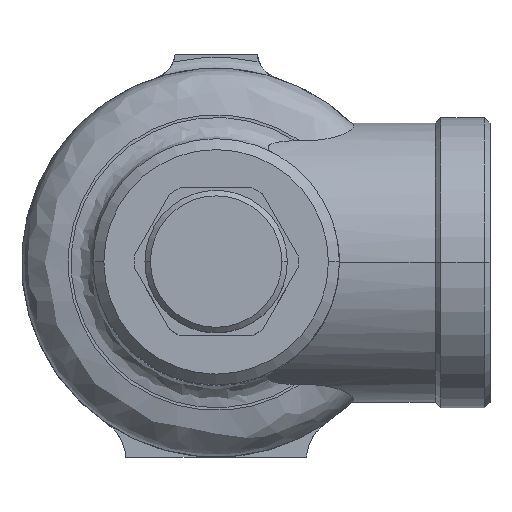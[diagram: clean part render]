
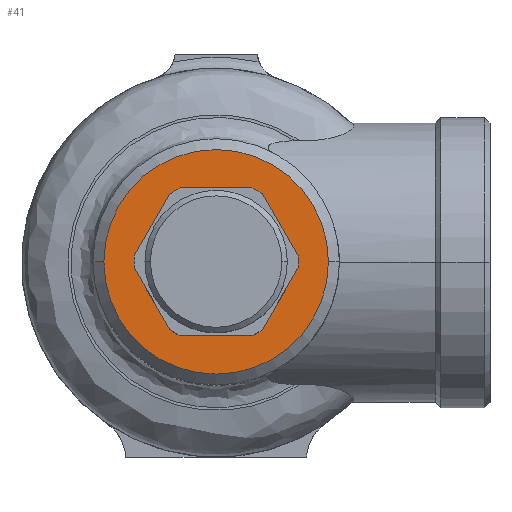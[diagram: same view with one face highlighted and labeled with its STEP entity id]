
A CAD part, top view. The second image highlights one B-rep face of the part: STEP entity #41.
In plain terms, the highlighted planar face has unit normal (0, 0, 1).
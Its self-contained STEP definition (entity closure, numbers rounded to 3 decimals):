
#41=ADVANCED_FACE('',(#137,#138),#136,.F.);
#136=PLANE('',#1040);
#137=FACE_OUTER_BOUND('',#1041,.T.);
#138=FACE_BOUND('',#1042,.T.);
#1037=CARTESIAN_POINT('',(386.904,-42.608,-247.223));
#1038=DIRECTION('',(0.,0.,-1.));
#1039=DIRECTION('',(-1.,0.,0.));
#1040=AXIS2_PLACEMENT_3D('',#1037,#1038,#1039);
#1041=EDGE_LOOP('',(#1798,#1799));
#1042=EDGE_LOOP('',(#1800,#1801,#1802,#1803,#1804,#1805,#1806,#1807,#1808,#1809,#1810,#1811,#1812,#1813));
#1798=ORIENTED_EDGE('',*,*,#2240,.F.);
#1799=ORIENTED_EDGE('',*,*,#2241,.F.);
#1800=ORIENTED_EDGE('',*,*,#2242,.F.);
#1801=ORIENTED_EDGE('',*,*,#2243,.F.);
#1802=ORIENTED_EDGE('',*,*,#2244,.F.);
#1803=ORIENTED_EDGE('',*,*,#2245,.F.);
#1804=ORIENTED_EDGE('',*,*,#2246,.F.);
#1805=ORIENTED_EDGE('',*,*,#2247,.F.);
#1806=ORIENTED_EDGE('',*,*,#2248,.F.);
#1807=ORIENTED_EDGE('',*,*,#2249,.F.);
#1808=ORIENTED_EDGE('',*,*,#2250,.F.);
#1809=ORIENTED_EDGE('',*,*,#2251,.F.);
#1810=ORIENTED_EDGE('',*,*,#2252,.F.);
#1811=ORIENTED_EDGE('',*,*,#2253,.F.);
#1812=ORIENTED_EDGE('',*,*,#2254,.F.);
#1813=ORIENTED_EDGE('',*,*,#2255,.F.);
#2240=EDGE_CURVE('',#2491,#2492,#2493,.T.);
#2241=EDGE_CURVE('',#2492,#2491,#2499,.T.);
#2242=EDGE_CURVE('',#2505,#2506,#2507,.T.);
#2243=EDGE_CURVE('',#2513,#2505,#2514,.T.);
#2244=EDGE_CURVE('',#2520,#2513,#2521,.T.);
#2245=EDGE_CURVE('',#2527,#2520,#2528,.T.);
#2246=EDGE_CURVE('',#2534,#2527,#2535,.T.);
#2247=EDGE_CURVE('',#2541,#2534,#2542,.T.);
#2248=EDGE_CURVE('',#2548,#2541,#2549,.T.);
#2249=EDGE_CURVE('',#2555,#2548,#2556,.T.);
#2250=EDGE_CURVE('',#2562,#2555,#2563,.T.);
#2251=EDGE_CURVE('',#2569,#2562,#2570,.T.);
#2252=EDGE_CURVE('',#2576,#2569,#2577,.T.);
#2253=EDGE_CURVE('',#2583,#2576,#2584,.T.);
#2254=EDGE_CURVE('',#2590,#2583,#2591,.T.);
#2255=EDGE_CURVE('',#2506,#2590,#2597,.T.);
#2491=VERTEX_POINT('',#3997);
#2492=VERTEX_POINT('',#3998);
#2493=CIRCLE('',#4002,20.5);
#2499=CIRCLE('',#4006,20.5);
#2505=VERTEX_POINT('',#4007);
#2506=VERTEX_POINT('',#4008);
#2507=CIRCLE('',#4012,15.);
#2513=VERTEX_POINT('',#4013);
#2514=LINE('',#4014,#4015);
#2520=VERTEX_POINT('',#4017);
#2521=LINE('',#4018,#4019);
#2527=VERTEX_POINT('',#4021);
#2528=CIRCLE('',#4025,15.);
#2534=VERTEX_POINT('',#4026);
#2535=LINE('',#4027,#4028);
#2541=VERTEX_POINT('',#4030);
#2542=CIRCLE('',#4034,15.);
#2548=VERTEX_POINT('',#4035);
#2549=LINE('',#4036,#4037);
#2555=VERTEX_POINT('',#4039);
#2556=LINE('',#4040,#4041);
#2562=VERTEX_POINT('',#4043);
#2563=CIRCLE('',#4047,15.);
#2569=VERTEX_POINT('',#4048);
#2570=LINE('',#4049,#4050);
#2576=VERTEX_POINT('',#4052);
#2577=CIRCLE('',#4056,15.);
#2583=VERTEX_POINT('',#4057);
#2584=LINE('',#4058,#4059);
#2590=VERTEX_POINT('',#4061);
#2591=CIRCLE('',#4065,15.);
#2597=LINE('',#4066,#4067);
#3997=CARTESIAN_POINT('',(360.254,0.,-247.223));
#3998=CARTESIAN_POINT('',(319.254,0.,-247.223));
#3999=CARTESIAN_POINT('',(339.754,0.,-247.223));
#4000=DIRECTION('',(0.,0.,-1.));
#4001=DIRECTION('',(-1.,0.,0.));
#4002=AXIS2_PLACEMENT_3D('',#3999,#4000,#4001);
#4003=CARTESIAN_POINT('',(339.754,0.,-247.223));
#4004=DIRECTION('',(0.,0.,-1.));
#4005=DIRECTION('',(-1.,0.,0.));
#4006=AXIS2_PLACEMENT_3D('',#4003,#4004,#4005);
#4007=CARTESIAN_POINT('',(354.715,-1.088,-247.223));
#4008=CARTESIAN_POINT('',(354.715,1.088,-247.223));
#4009=CARTESIAN_POINT('',(339.754,0.,-247.223));
#4010=DIRECTION('',(0.,0.,1.));
#4011=DIRECTION('',(0.997,0.073,0.));
#4012=AXIS2_PLACEMENT_3D('',#4009,#4010,#4011);
#4013=CARTESIAN_POINT('',(348.234,-12.312,-247.223));
#4014=CARTESIAN_POINT('',(348.234,-12.312,-247.223));
#4015=VECTOR('',#4016,12.961);
#4016=DIRECTION('',(0.5,0.866,0.));
#4017=CARTESIAN_POINT('',(348.176,-12.412,-247.223));
#4018=CARTESIAN_POINT('',(348.176,-12.412,-247.223));
#4019=VECTOR('',#4020,0.116);
#4020=DIRECTION('',(0.5,0.866,0.));
#4021=CARTESIAN_POINT('',(346.293,-13.5,-247.223));
#4022=CARTESIAN_POINT('',(339.754,0.,-247.223));
#4023=DIRECTION('',(0.,0.,1.));
#4024=DIRECTION('',(1.,0.,0.));
#4025=AXIS2_PLACEMENT_3D('',#4022,#4023,#4024);
#4026=CARTESIAN_POINT('',(333.216,-13.5,-247.223));
#4027=CARTESIAN_POINT('',(333.216,-13.5,-247.223));
#4028=VECTOR('',#4029,13.077);
#4029=DIRECTION('',(1.,0.,0.));
#4030=CARTESIAN_POINT('',(331.332,-12.412,-247.223));
#4031=CARTESIAN_POINT('',(339.754,0.,-247.223));
#4032=DIRECTION('',(0.,0.,1.));
#4033=DIRECTION('',(1.,0.,0.));
#4034=AXIS2_PLACEMENT_3D('',#4031,#4032,#4033);
#4035=CARTESIAN_POINT('',(331.274,-12.312,-247.223));
#4036=CARTESIAN_POINT('',(331.274,-12.312,-247.223));
#4037=VECTOR('',#4038,0.116);
#4038=DIRECTION('',(0.5,-0.866,0.));
#4039=CARTESIAN_POINT('',(324.794,-1.088,-247.223));
#4040=CARTESIAN_POINT('',(324.794,-1.088,-247.223));
#4041=VECTOR('',#4042,12.961);
#4042=DIRECTION('',(0.5,-0.866,0.));
#4043=CARTESIAN_POINT('',(324.794,1.088,-247.223));
#4044=CARTESIAN_POINT('',(339.754,0.,-247.223));
#4045=DIRECTION('',(0.,0.,1.));
#4046=DIRECTION('',(1.,0.,0.));
#4047=AXIS2_PLACEMENT_3D('',#4044,#4045,#4046);
#4048=CARTESIAN_POINT('',(331.332,12.412,-247.223));
#4049=CARTESIAN_POINT('',(331.332,12.412,-247.223));
#4050=VECTOR('',#4051,13.077);
#4051=DIRECTION('',(-0.5,-0.866,0.));
#4052=CARTESIAN_POINT('',(333.216,13.5,-247.223));
#4053=CARTESIAN_POINT('',(339.754,0.,-247.223));
#4054=DIRECTION('',(0.,0.,1.));
#4055=DIRECTION('',(1.,0.,0.));
#4056=AXIS2_PLACEMENT_3D('',#4053,#4054,#4055);
#4057=CARTESIAN_POINT('',(346.293,13.5,-247.223));
#4058=CARTESIAN_POINT('',(346.293,13.5,-247.223));
#4059=VECTOR('',#4060,13.077);
#4060=DIRECTION('',(-1.,0.,0.));
#4061=CARTESIAN_POINT('',(348.176,12.412,-247.223));
#4062=CARTESIAN_POINT('',(339.754,0.,-247.223));
#4063=DIRECTION('',(0.,0.,1.));
#4064=DIRECTION('',(1.,0.,0.));
#4065=AXIS2_PLACEMENT_3D('',#4062,#4063,#4064);
#4066=CARTESIAN_POINT('',(354.715,1.088,-247.223));
#4067=VECTOR('',#4068,13.077);
#4068=DIRECTION('',(-0.5,0.866,0.));
